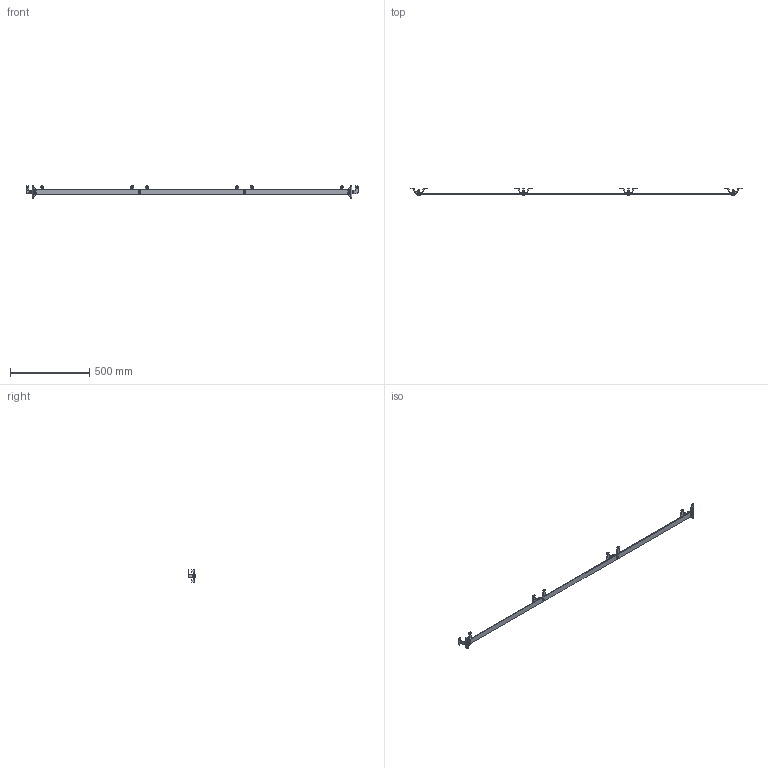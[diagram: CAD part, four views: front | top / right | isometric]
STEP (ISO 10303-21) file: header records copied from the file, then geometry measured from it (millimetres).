
FILE_DESCRIPTION(/* description */ ('Sortiment 1'),/* implementation_level */ '2;1');
FILE_NAME(/* name */ 'D:\Public\STP\010330060_TP.stp',/* time_stamp */ '2020-05-13T16:47:17+02:00',/* author */ ('M.Barta'),/* organization */ (''),/* preprocessor_version */ 'ST-DEVELOPER v17.2',/* originating_system */ 'Autodesk Inventor 2019',/* authorisation */ '');
FILE_SCHEMA (('AUTOMOTIVE_DESIGN { 1 0 10303 214 3 1 1 }'));
Length unit declared in the file: millimetre
Products named in the file (8): 010330060; 337000391; 337000389; 010330101; DIN 125 - A 8,4; DIN EN ISO 4032 - M8; ISO 4017 - M8 x 35; DIN 127 - A 8
Assembly tree (27 placements, depth 2):
  010330060
    337000391
    337000389  x2
    010330101  x4
    DIN 125 - A 8,4  x8
    DIN EN ISO 4032 - M8  x4
    ISO 4017 - M8 x 35  x4
    DIN 127 - A 8  x4
Bounding box: 2090 x 48.9 x 80 mm (x, y, z)
Volume: 519822.7 mm3; surface area: 226474.8 mm2
Topology: 27 solids, 27 shells, 478 faces, 1160 edges, 748 vertices
Faces by surface type: plane 278, cylinder 152, cone 44, bspline 4
Full cylindrical faces by diameter (mm): 6.647 x4, 8 x4, 8.4 x8, 8.5 x12, 11.63 x4, 16 x8
Entity records: 4718 total; most frequent: CARTESIAN_POINT 878, DIRECTION 778, ORIENTED_EDGE 696, EDGE_CURVE 348, AXIS2_PLACEMENT_3D 286, VERTEX_POINT 226, LINE 206, VECTOR 206
